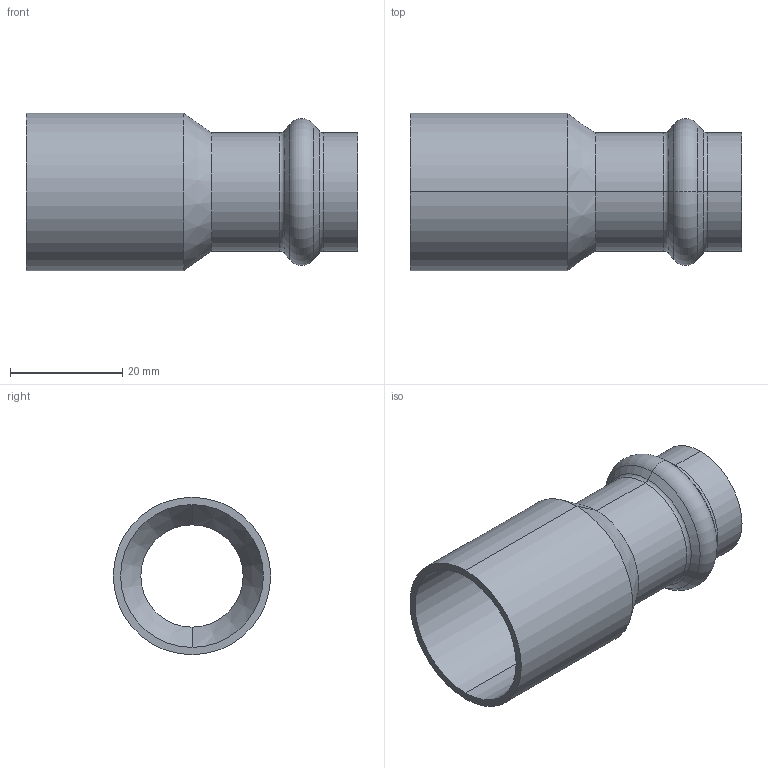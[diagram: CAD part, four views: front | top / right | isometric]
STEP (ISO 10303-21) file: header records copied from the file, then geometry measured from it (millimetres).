
FILE_DESCRIPTION (( 'STEP AP203' ), '1' );
FILE_NAME ('SP5243 28-18.STEP', '2017-04-24T09:05:23', ( '' ), ( '' ), 'SwSTEP 2.0', 'SolidWorks 2016', '' );
FILE_SCHEMA (( 'CONFIG_CONTROL_DESIGN' ));
Length unit declared in the file: millimetre
Products named in the file (1): SP5243 28-18
Bounding box: 59 x 28 x 28 mm (x, y, z)
Volume: 6206.2 mm3; surface area: 9377.6 mm2
Topology: 1 solids, 1 shells, 38 faces, 76 edges, 40 vertices
Faces by surface type: torus 12, cylinder 12, cone 12, plane 2
Entity records: 1057 total; most frequent: DIRECTION 206, CARTESIAN_POINT 155, ORIENTED_EDGE 152, AXIS2_PLACEMENT_3D 91, EDGE_CURVE 76, CIRCLE 52, VERTEX_POINT 40, EDGE_LOOP 40
